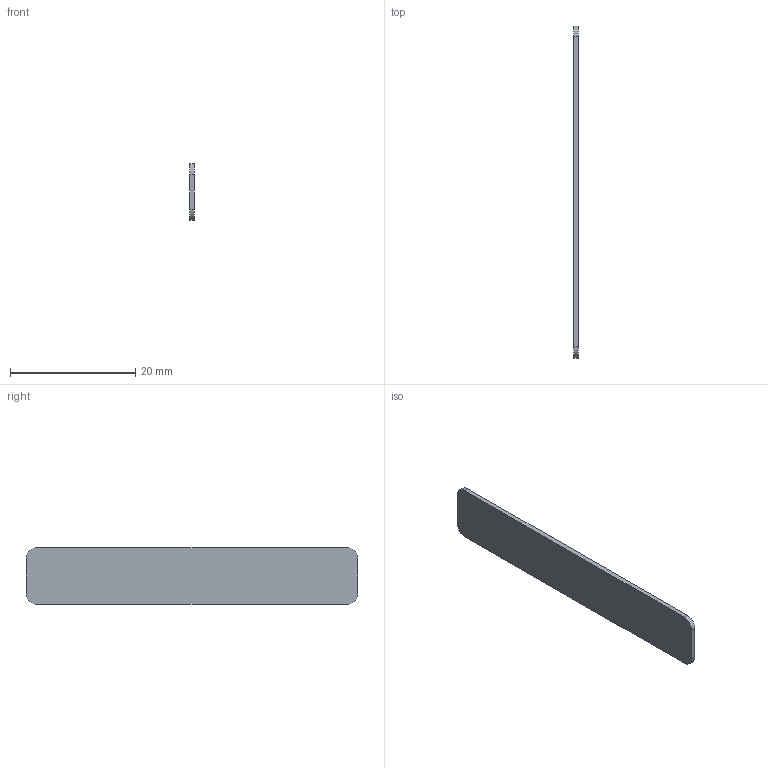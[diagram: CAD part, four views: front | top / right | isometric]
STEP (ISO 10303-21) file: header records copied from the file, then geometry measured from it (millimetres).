
FILE_DESCRIPTION( ( 'Unknown' ), '1' );
FILE_NAME( 'C:/Users/Tim English/Desktop/New folder/MISC/UPDATE/_NEW STL/TEMPUS_V1-0/TFB_NAMEPLATE(TimETraveller8)_V1-0.stp', 'Unknown', ( 'Unknown' ), ( 'Unknown' ), 'PSStep 14.0', 'Unknown', ' ' );
FILE_SCHEMA( ( 'AUTOMOTIVE_DESIGN { 1 0 10303 214 1 1 1 1 }' ) );
Length unit declared in the file: millimetre
Products named in the file (1): 1
Bounding box: 0.7 x 53 x 9 mm (x, y, z)
Volume: 332.1 mm3; surface area: 1033.4 mm2
Topology: 1 solids, 1 shells, 10 faces, 24 edges, 16 vertices
Faces by surface type: plane 6, cylinder 4
Entity records: 392 total; most frequent: DIRECTION 54, CARTESIAN_POINT 51, ORIENTED_EDGE 48, EDGE_CURVE 24, AXIS2_PLACEMENT_3D 19, VERTEX_POINT 16, LINE 16, VECTOR 16
